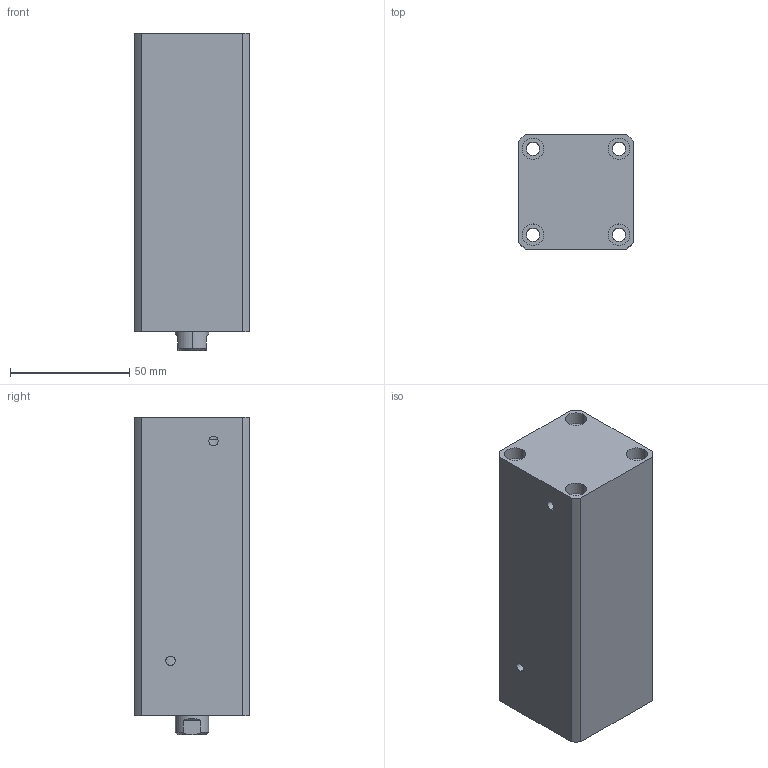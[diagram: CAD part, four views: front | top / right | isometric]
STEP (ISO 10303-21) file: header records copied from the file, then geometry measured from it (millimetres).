
FILE_DESCRIPTION (( 'STEP AP214' ), '1' );
FILE_NAME ('chtb-sdma25x80n_asm.STEP', '2018-05-22T07:12:15', ( 'Windows' ), ( 'Microsoft' ), 'SwSTEP 2.0', 'SolidWorks 2015', '' );
FILE_SCHEMA (( 'AUTOMOTIVE_DESIGN' ));
Length unit declared in the file: millimetre
Products named in the file (4): CHTB-SDMA25X80NHSG; CHTB-SDMA25X80NBT; CHTB-25QG; chtb-sdma25x80n_asm
Assembly tree (3 placements, depth 2):
  chtb-sdma25x80n_asm
    CHTB-25QG
    CHTB-SDMA25X80NBT
    CHTB-SDMA25X80NHSG
Bounding box: 48 x 48 x 133 mm (x, y, z)
Volume: 242652.9 mm3; surface area: 60887 mm2
Topology: 3 solids, 3 shells, 142 faces, 379 edges, 257 vertices
Faces by surface type: cylinder 89, plane 34, bspline 10, cone 9
Entity records: 8020 total; most frequent: CARTESIAN_POINT 4393, ORIENTED_EDGE 746, DIRECTION 661, EDGE_CURVE 373, AXIS2_PLACEMENT_3D 272, VERTEX_POINT 257, EDGE_LOOP 180, FACE_OUTER_BOUND 142
